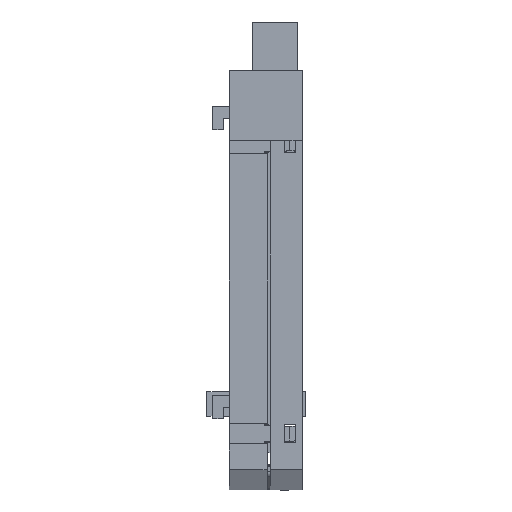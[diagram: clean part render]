
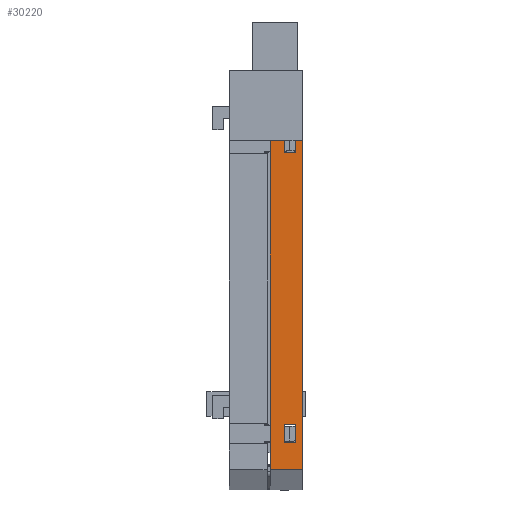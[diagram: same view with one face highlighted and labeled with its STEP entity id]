
A CAD part, front view. The second image highlights one B-rep face of the part: STEP entity #30220.
In plain terms, the highlighted planar face has unit normal (0, -1, 0).
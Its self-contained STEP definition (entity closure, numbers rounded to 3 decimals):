
#288 = CARTESIAN_POINT ( 'NONE',  ( 5.5, 0., -65.25 ) ) ;
#394 = LINE ( 'NONE', #23236, #25911 ) ;
#673 = CARTESIAN_POINT ( 'NONE',  ( 4.4, 0., -10.945 ) ) ;
#1275 = ORIENTED_EDGE ( 'NONE', *, *, #13851, .T. ) ;
#1410 = VERTEX_POINT ( 'NONE', #288 ) ;
#1627 = EDGE_CURVE ( 'NONE', #22297, #15895, #15826, .T. ) ;
#1695 = DIRECTION ( 'NONE',  ( 0., 0., -1. ) ) ;
#1768 = LINE ( 'NONE', #14207, #2627 ) ;
#1960 = CARTESIAN_POINT ( 'NONE',  ( 0., 0., 0. ) ) ;
#2216 = VERTEX_POINT ( 'NONE', #2448 ) ;
#2283 = DIRECTION ( 'NONE',  ( 0., 0., 1. ) ) ;
#2448 = CARTESIAN_POINT ( 'NONE',  ( 4.4, 0., -57.545 ) ) ;
#2547 = VECTOR ( 'NONE', #34261, 1000. ) ;
#2627 = VECTOR ( 'NONE', #11478, 1000. ) ;
#2913 = CARTESIAN_POINT ( 'NONE',  ( 2.4, 0., -7.845 ) ) ;
#3686 = EDGE_CURVE ( 'NONE', #1410, #15895, #15979, .T. ) ;
#3982 = VERTEX_POINT ( 'NONE', #4709 ) ;
#4709 = CARTESIAN_POINT ( 'NONE',  ( 2.4, 0., -57.545 ) ) ;
#5088 = LINE ( 'NONE', #32116, #33200 ) ;
#5137 = ORIENTED_EDGE ( 'NONE', *, *, #29831, .T. ) ;
#5477 = DIRECTION ( 'NONE',  ( 0., 0., -1. ) ) ;
#5511 = EDGE_CURVE ( 'NONE', #24620, #31420, #20983, .T. ) ;
#5588 = FACE_BOUND ( 'NONE', #12353, .T. ) ;
#6048 = CARTESIAN_POINT ( 'NONE',  ( 5.5, 0., -65.25 ) ) ;
#6829 = EDGE_LOOP ( 'NONE', ( #5137, #13137, #8263, #29412 ) ) ;
#7082 = CARTESIAN_POINT ( 'NONE',  ( 5.5, 0., 0. ) ) ;
#7940 = VECTOR ( 'NONE', #15393, 1000. ) ;
#8263 = ORIENTED_EDGE ( 'NONE', *, *, #5511, .T. ) ;
#9200 = CARTESIAN_POINT ( 'NONE',  ( 2.4, 0., -60.645 ) ) ;
#9367 = EDGE_LOOP ( 'NONE', ( #29559, #20419, #21242, #24229 ) ) ;
#9475 = DIRECTION ( 'NONE',  ( 0., 0., -1. ) ) ;
#9494 = VECTOR ( 'NONE', #16267, 1000. ) ;
#9851 = LINE ( 'NONE', #15302, #2547 ) ;
#9928 = LINE ( 'NONE', #17574, #30778 ) ;
#10115 = ORIENTED_EDGE ( 'NONE', *, *, #35007, .T. ) ;
#11478 = DIRECTION ( 'NONE',  ( 0., 0., 1. ) ) ;
#11777 = EDGE_CURVE ( 'NONE', #17544, #1410, #394, .T. ) ;
#12047 = FACE_OUTER_BOUND ( 'NONE', #9367, .T. ) ;
#12353 = EDGE_LOOP ( 'NONE', ( #1275, #10115, #26334, #12608 ) ) ;
#12608 = ORIENTED_EDGE ( 'NONE', *, *, #32540, .T. ) ;
#13041 = AXIS2_PLACEMENT_3D ( 'NONE', #24282, #29733, #13458 ) ;
#13137 = ORIENTED_EDGE ( 'NONE', *, *, #24517, .T. ) ;
#13458 = DIRECTION ( 'NONE',  ( 0., 0., 1. ) ) ;
#13851 = EDGE_CURVE ( 'NONE', #17850, #18237, #33831, .T. ) ;
#14100 = CARTESIAN_POINT ( 'NONE',  ( 4.4, 0., -10.945 ) ) ;
#14207 = CARTESIAN_POINT ( 'NONE',  ( 2.4, 0., -10.945 ) ) ;
#15134 = VECTOR ( 'NONE', #2283, 1000. ) ;
#15302 = CARTESIAN_POINT ( 'NONE',  ( 2.4, 0., -57.545 ) ) ;
#15393 = DIRECTION ( 'NONE',  ( -1., 0., 0. ) ) ;
#15763 = CARTESIAN_POINT ( 'NONE',  ( 0., 0., 0. ) ) ;
#15826 = LINE ( 'NONE', #15763, #16122 ) ;
#15895 = VERTEX_POINT ( 'NONE', #26850 ) ;
#15979 = LINE ( 'NONE', #6048, #21434 ) ;
#16122 = VECTOR ( 'NONE', #32001, 1000. ) ;
#16267 = DIRECTION ( 'NONE',  ( 1., 0., 0. ) ) ;
#16839 = CARTESIAN_POINT ( 'NONE',  ( 4.4, 0., -60.645 ) ) ;
#17027 = EDGE_CURVE ( 'NONE', #17544, #22297, #30588, .T. ) ;
#17069 = DIRECTION ( 'NONE',  ( -1., 0., 0. ) ) ;
#17544 = VERTEX_POINT ( 'NONE', #33863 ) ;
#17574 = CARTESIAN_POINT ( 'NONE',  ( 4.4, 0., -60.645 ) ) ;
#17586 = LINE ( 'NONE', #21550, #9494 ) ;
#17850 = VERTEX_POINT ( 'NONE', #16839 ) ;
#18237 = VERTEX_POINT ( 'NONE', #35073 ) ;
#18643 = CARTESIAN_POINT ( 'NONE',  ( 2.4, 0., -60.645 ) ) ;
#19193 = CARTESIAN_POINT ( 'NONE',  ( 4.4, 0., -7.845 ) ) ;
#20419 = ORIENTED_EDGE ( 'NONE', *, *, #3686, .F. ) ;
#20983 = LINE ( 'NONE', #673, #21429 ) ;
#21242 = ORIENTED_EDGE ( 'NONE', *, *, #11777, .F. ) ;
#21429 = VECTOR ( 'NONE', #5477, 1000. ) ;
#21434 = VECTOR ( 'NONE', #28352, 1000. ) ;
#21550 = CARTESIAN_POINT ( 'NONE',  ( 2.4, 0., -7.845 ) ) ;
#22297 = VERTEX_POINT ( 'NONE', #1960 ) ;
#23236 = CARTESIAN_POINT ( 'NONE',  ( 5.5, 0., 0. ) ) ;
#24148 = DIRECTION ( 'NONE',  ( -1., 0., 0. ) ) ;
#24229 = ORIENTED_EDGE ( 'NONE', *, *, #17027, .T. ) ;
#24282 = CARTESIAN_POINT ( 'NONE',  ( 5.5, 0., 0. ) ) ;
#24517 = EDGE_CURVE ( 'NONE', #25716, #24620, #17586, .T. ) ;
#24620 = VERTEX_POINT ( 'NONE', #19193 ) ;
#25716 = VERTEX_POINT ( 'NONE', #2913 ) ;
#25911 = VECTOR ( 'NONE', #1695, 1000. ) ;
#26294 = VERTEX_POINT ( 'NONE', #27521 ) ;
#26334 = ORIENTED_EDGE ( 'NONE', *, *, #33133, .T. ) ;
#26610 = EDGE_CURVE ( 'NONE', #31420, #26294, #5088, .T. ) ;
#26850 = CARTESIAN_POINT ( 'NONE',  ( 0., 0., -65.25 ) ) ;
#26997 = PLANE ( 'NONE',  #13041 ) ;
#27521 = CARTESIAN_POINT ( 'NONE',  ( 2.4, 0., -10.945 ) ) ;
#28352 = DIRECTION ( 'NONE',  ( -1., 0., 0. ) ) ;
#29122 = VECTOR ( 'NONE', #17069, 1000. ) ;
#29412 = ORIENTED_EDGE ( 'NONE', *, *, #26610, .T. ) ;
#29559 = ORIENTED_EDGE ( 'NONE', *, *, #1627, .T. ) ;
#29733 = DIRECTION ( 'NONE',  ( 0., 1., 0. ) ) ;
#29831 = EDGE_CURVE ( 'NONE', #26294, #25716, #1768, .T. ) ;
#30220 = ADVANCED_FACE ( 'NONE', ( #32831, #5588, #12047 ), #26997, .F. ) ;
#30588 = LINE ( 'NONE', #7082, #7940 ) ;
#30778 = VECTOR ( 'NONE', #9475, 1000. ) ;
#31420 = VERTEX_POINT ( 'NONE', #14100 ) ;
#32001 = DIRECTION ( 'NONE',  ( 0., 0., -1. ) ) ;
#32116 = CARTESIAN_POINT ( 'NONE',  ( 2.4, 0., -10.945 ) ) ;
#32540 = EDGE_CURVE ( 'NONE', #2216, #17850, #9928, .T. ) ;
#32831 = FACE_BOUND ( 'NONE', #6829, .T. ) ;
#33133 = EDGE_CURVE ( 'NONE', #3982, #2216, #9851, .T. ) ;
#33200 = VECTOR ( 'NONE', #24148, 1000. ) ;
#33831 = LINE ( 'NONE', #9200, #29122 ) ;
#33863 = CARTESIAN_POINT ( 'NONE',  ( 5.5, 0., 0. ) ) ;
#34261 = DIRECTION ( 'NONE',  ( 1., 0., 0. ) ) ;
#35007 = EDGE_CURVE ( 'NONE', #18237, #3982, #35037, .T. ) ;
#35037 = LINE ( 'NONE', #18643, #15134 ) ;
#35073 = CARTESIAN_POINT ( 'NONE',  ( 2.4, 0., -60.645 ) ) ;
